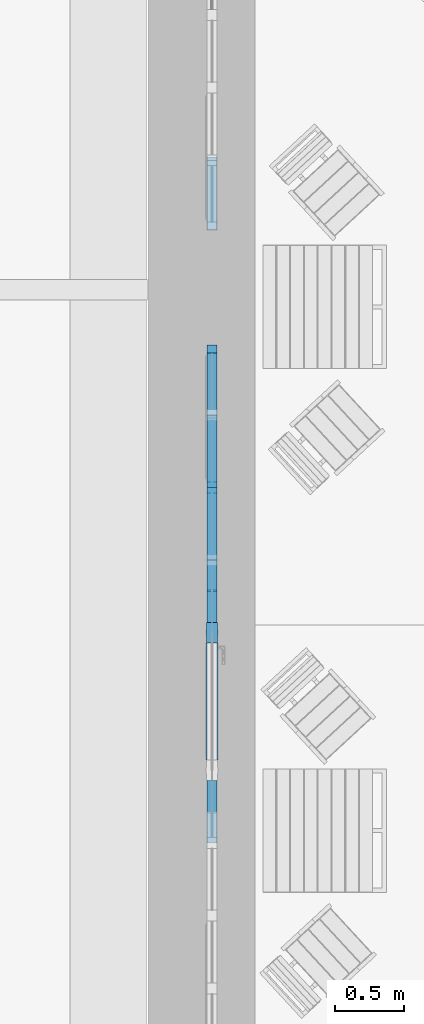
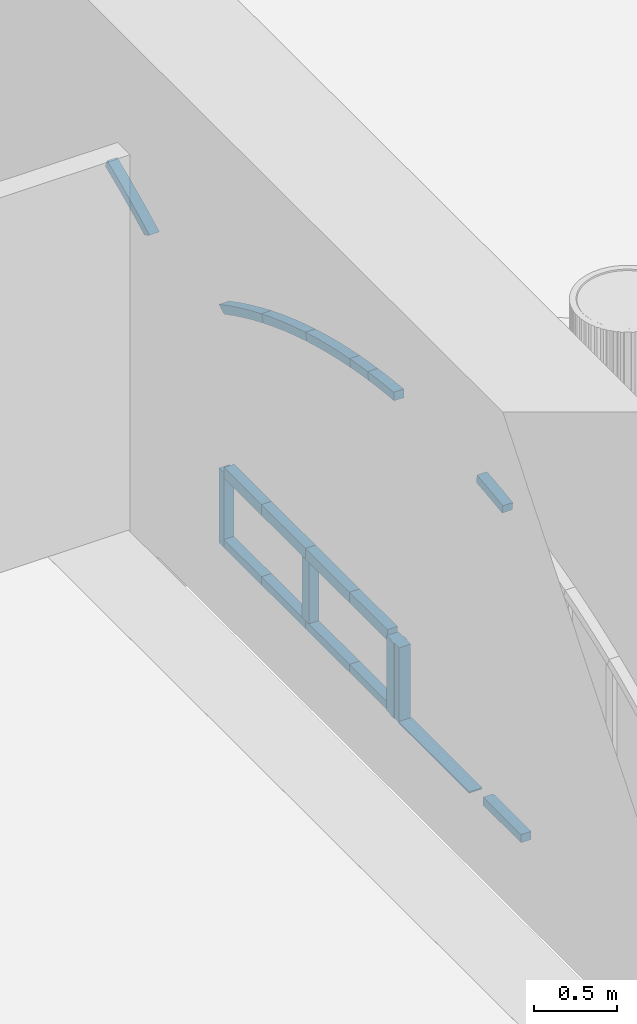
# One storey, part 20 of 88: 20 members, 2 elements without a shape of their own.
"""IFC2X3 building model written with IfcOpenShell, lengths in millimetres."""

from ifc_helpers import new_model, entity, si_unit, converted_unit, derived_unit, direction, frame, frame_2d, origin, place, context, subcontext, project, spatial, polyline, circle_curve, parameter, trimmed, segment, composite_curve, rectangle, outline, extrude, source, transform, mapped, material, type_object, type_shapes, element, aggregate, save


model = new_model("IFC2X3")

# Units and contexts
model_context = context("Model", 3, precision=0.01, world=origin(), true_north=direction((6.123031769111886e-17, 1.0)))
body_context = subcontext(model_context, "Body", "Model", "MODEL_VIEW")
ifc_project = project(units=[si_unit("LENGTHUNIT", "METRE", prefix="MILLI"), si_unit("AREAUNIT", "SQUARE_METRE"), si_unit("VOLUMEUNIT", "CUBIC_METRE"), converted_unit("PLANEANGLEUNIT", "DEGREE", entity("IfcPlaneAngleMeasure", 0.017453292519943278), si_unit("PLANEANGLEUNIT", "RADIAN"), dimensions=[0, 0, 0, 0, 0, 0, 0]), si_unit("MASSUNIT", "GRAM", prefix="KILO"), derived_unit("MASSDENSITYUNIT", [(si_unit("MASSUNIT", "GRAM", prefix="KILO"), 1), (si_unit("LENGTHUNIT", "METRE"), -3)]), derived_unit("IONCONCENTRATIONUNIT", [(si_unit("MASSUNIT", "GRAM", prefix="KILO"), 1), (si_unit("LENGTHUNIT", "METRE"), -3)]), derived_unit("MOMENTOFINERTIAUNIT", [(si_unit("LENGTHUNIT", "METRE"), 4)]), si_unit("TIMEUNIT", "SECOND"), si_unit("FREQUENCYUNIT", "HERTZ"), si_unit("THERMODYNAMICTEMPERATUREUNIT", "DEGREE_CELSIUS"), derived_unit("THERMALTRANSMITTANCEUNIT", [(si_unit("MASSUNIT", "GRAM", prefix="KILO"), 1), (si_unit("THERMODYNAMICTEMPERATUREUNIT", "KELVIN"), -1), (si_unit("TIMEUNIT", "SECOND"), -3)]), derived_unit("THERMALCONDUCTANCEUNIT", [(si_unit("MASSUNIT", "GRAM", prefix="KILO"), 1), (si_unit("THERMODYNAMICTEMPERATUREUNIT", "KELVIN"), -1), (si_unit("TIMEUNIT", "SECOND"), -3), (si_unit("LENGTHUNIT", "METRE"), 1)]), derived_unit("VOLUMETRICFLOWRATEUNIT", [(si_unit("LENGTHUNIT", "METRE", prefix="DECI"), 3), (si_unit("TIMEUNIT", "SECOND"), -1)]), derived_unit("MASSFLOWRATEUNIT", [(si_unit("MASSUNIT", "GRAM", prefix="KILO"), 1), (si_unit("TIMEUNIT", "SECOND"), -1)]), derived_unit("ROTATIONALFREQUENCYUNIT", [(si_unit("TIMEUNIT", "SECOND"), -1)]), si_unit("ELECTRICCURRENTUNIT", "AMPERE"), si_unit("ELECTRICVOLTAGEUNIT", "VOLT"), si_unit("POWERUNIT", "WATT"), si_unit("FORCEUNIT", "NEWTON", prefix="KILO"), si_unit("ILLUMINANCEUNIT", "LUX"), si_unit("LUMINOUSFLUXUNIT", "LUMEN"), si_unit("LUMINOUSINTENSITYUNIT", "CANDELA"), si_unit("ENERGYUNIT", "JOULE"), derived_unit("USERDEFINED", [(si_unit("MASSUNIT", "GRAM", prefix="KILO"), -1), (si_unit("LENGTHUNIT", "METRE"), -2), (si_unit("TIMEUNIT", "SECOND"), 3), (si_unit("LUMINOUSFLUXUNIT", "LUMEN"), 1)]), derived_unit("USERDEFINED", [(si_unit("MASSUNIT", "GRAM", prefix="KILO"), 1), (si_unit("TIMEUNIT", "SECOND"), -3), (si_unit("LENGTHUNIT", "METRE"), 3), (si_unit("ELECTRICCURRENTUNIT", "AMPERE"), -2)]), derived_unit("SOUNDPOWERUNIT", [(si_unit("MASSUNIT", "GRAM", prefix="KILO"), 1), (si_unit("TIMEUNIT", "SECOND"), -3), (si_unit("LENGTHUNIT", "METRE"), 2)]), derived_unit("SOUNDPRESSUREUNIT", [(si_unit("MASSUNIT", "GRAM", prefix="KILO"), 1), (si_unit("LENGTHUNIT", "METRE"), -1), (si_unit("TIMEUNIT", "SECOND"), -2)]), derived_unit("LINEARVELOCITYUNIT", [(si_unit("LENGTHUNIT", "METRE"), 1), (si_unit("TIMEUNIT", "SECOND"), -1)]), si_unit("PRESSUREUNIT", "PASCAL"), derived_unit("USERDEFINED", [(si_unit("MASSUNIT", "GRAM", prefix="KILO"), 1), (si_unit("LENGTHUNIT", "METRE"), -2), (si_unit("TIMEUNIT", "SECOND"), -2)]), derived_unit("LINEARFORCEUNIT", [(si_unit("MASSUNIT", "GRAM", prefix="KILO"), 1), (si_unit("TIMEUNIT", "SECOND"), -2)]), derived_unit("PLANARFORCEUNIT", [(si_unit("MASSUNIT", "GRAM", prefix="KILO"), 1), (si_unit("LENGTHUNIT", "METRE"), -1), (si_unit("TIMEUNIT", "SECOND"), -2)]), derived_unit("SPECIFICHEATCAPACITYUNIT", [(si_unit("THERMODYNAMICTEMPERATUREUNIT", "KELVIN"), -1), (si_unit("LENGTHUNIT", "METRE"), 2), (si_unit("TIMEUNIT", "SECOND"), -2)]), derived_unit("HEATFLUXDENSITYUNIT", [(si_unit("MASSUNIT", "GRAM", prefix="KILO"), 1), (si_unit("TIMEUNIT", "SECOND"), -3)]), derived_unit("HEATINGVALUEUNIT", [(si_unit("LENGTHUNIT", "METRE"), 2), (si_unit("TIMEUNIT", "SECOND"), -2)]), derived_unit("VAPORPERMEABILITYUNIT", [(si_unit("LENGTHUNIT", "METRE"), -1), (si_unit("TIMEUNIT", "SECOND"), 1)]), derived_unit("DYNAMICVISCOSITYUNIT", [(si_unit("MASSUNIT", "GRAM", prefix="KILO"), 1), (si_unit("TIMEUNIT", "SECOND"), -1), (si_unit("LENGTHUNIT", "METRE"), -1)]), derived_unit("THERMALEXPANSIONCOEFFICIENTUNIT", [(si_unit("THERMODYNAMICTEMPERATUREUNIT", "KELVIN"), -1)]), derived_unit("MODULUSOFELASTICITYUNIT", [(si_unit("MASSUNIT", "GRAM", prefix="KILO"), 1), (si_unit("LENGTHUNIT", "METRE"), -1), (si_unit("TIMEUNIT", "SECOND"), -2)]), derived_unit("ISOTHERMALMOISTURECAPACITYUNIT", [(si_unit("MASSUNIT", "GRAM", prefix="KILO"), -1), (si_unit("LENGTHUNIT", "METRE"), 3)]), derived_unit("MOISTUREDIFFUSIVITYUNIT", [(si_unit("TIMEUNIT", "SECOND"), -1), (si_unit("LENGTHUNIT", "METRE"), 2)]), derived_unit("MASSPERLENGTHUNIT", [(si_unit("MASSUNIT", "GRAM", prefix="KILO"), 1), (si_unit("LENGTHUNIT", "METRE"), -1)]), derived_unit("THERMALRESISTANCEUNIT", [(si_unit("MASSUNIT", "GRAM", prefix="KILO"), -1), (si_unit("TIMEUNIT", "SECOND"), 3), (si_unit("THERMODYNAMICTEMPERATUREUNIT", "KELVIN"), 1)]), derived_unit("ACCELERATIONUNIT", [(si_unit("LENGTHUNIT", "METRE"), 1), (si_unit("TIMEUNIT", "SECOND"), -2)]), derived_unit("ANGULARVELOCITYUNIT", [(si_unit("TIMEUNIT", "SECOND"), -1), (si_unit("PLANEANGLEUNIT", "RADIAN"), 1)]), derived_unit("LINEARSTIFFNESSUNIT", [(si_unit("MASSUNIT", "GRAM", prefix="KILO"), 1), (si_unit("TIMEUNIT", "SECOND"), -2)]), derived_unit("WARPINGCONSTANTUNIT", [(si_unit("LENGTHUNIT", "METRE"), 6)]), derived_unit("LINEARMOMENTUNIT", [(si_unit("MASSUNIT", "GRAM", prefix="KILO"), 1), (si_unit("LENGTHUNIT", "METRE"), 1), (si_unit("TIMEUNIT", "SECOND"), -2)]), derived_unit("TORQUEUNIT", [(si_unit("MASSUNIT", "GRAM", prefix="KILO"), 1), (si_unit("LENGTHUNIT", "METRE"), 2), (si_unit("TIMEUNIT", "SECOND"), -2)])], contexts=[model_context])

# Site, building, storey
site_placement = place(None, origin())
site = spatial("IfcSite", under=ifc_project, at=site_placement, Name="Default", CompositionType="ELEMENT")
building_placement = place(site_placement, origin())
building = spatial("IfcBuilding", under=site, at=building_placement, Name="Eesti Rahvusraamatukogu hoone renoveerimise projekteerimistööd", CompositionType="ELEMENT")
storey_placement = place(building_placement, origin())
storey = spatial("IfcBuildingStorey", under=building, at=storey_placement, Name="1. korrus", CompositionType="ELEMENT", Elevation=0.0)

# Curtain wall, members
curtain_wall_type_1 = type_object("IfcCurtainWallType", Name="Curtain Wall:Ak-05*", PredefinedType="NOTDEFINED")
curtain_wall_1_placement = place(storey_placement, origin())
curtain_wall_1 = element("IfcCurtainWall", 1, at=curtain_wall_1_placement, inside=storey, type_object=curtain_wall_type_1, Name="Curtain Wall:Ak-05*", ObjectType="Curtain Wall:Ak-05*")
ifc_material_1 = material(Name="LUMION_dark steel window frames")
member_type_1 = type_object("IfcMemberType", Name="Rectangular Mullion:NEW 60x70mm", PredefinedType="MULLION", material=ifc_material_1)
shared_shape_1 = source(origin(), body_context, "Body", "SweptSolid", [
    extrude(outline(composite_curve([segment(trimmed(circle_curve(frame_2d((4549.812785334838, 3066.2072493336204), x_axis=(-0.8006634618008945, -0.5991143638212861)), 5523.280566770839), [parameter(354.15250498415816)], [parameter(359.99999999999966)], True, "PARAMETER"), True, "CONTINUOUS"), segment(polyline([(127.52384624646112, -242.86947363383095), (175.56365395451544, -206.92261180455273)]), True, "CONTINUOUS"), segment(trimmed(circle_curve(frame_2d((4549.812785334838, 3066.2072493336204), x_axis=(-0.8006634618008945, -0.5991143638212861)), 5463.280566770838), [parameter(354.53073311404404)], [parameter(359.99999999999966)], True, "PARAMETER"), False, "CONTINUOUS"), segment(polyline([(-116.49037438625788, 224.89604271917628), (-186.59712581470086, 224.89604271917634)]), True, "CONTINUOUS")], self_intersect=False)), frame((-43.402905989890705, -35.0, -270.85808154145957), z_axis=(0.0, -1.0, 0.0), x_axis=(-0.800663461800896, 0.0, 0.5991143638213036)), (0.0, 0.0, -1.0), 69.99999999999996),
])
type_shapes(member_type_1, [shared_shape_1])
member_1_placement = place(curtain_wall_1_placement, frame((-42905.0, 11480.0, 1939.304710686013), z_axis=(0.0, -0.9256428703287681, 0.3783983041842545), x_axis=(0.0, 0.3783983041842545, 0.9256428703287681)))
member_1 = element("IfcMember", 2, at=member_1_placement, type_object=member_type_1, material=ifc_material_1, Name="Rectangular Mullion:NEW 60x70mm", ObjectType="Rectangular Mullion:NEW 60x70mm", context=body_context, shape_type="MappedRepresentation", body=[
    mapped(shared_shape_1, transform((0.0, 0.0, 0.0), scale=1.0)),
])
member_type_2 = type_object("IfcMemberType", Name="Rectangular Mullion:NEW 60x70mm", PredefinedType="MULLION", material=ifc_material_1)
shared_shape_2 = source(origin(), body_context, "Body", "SweptSolid", [
    extrude(outline(composite_curve([segment(polyline([(-44.19959331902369, -278.9278071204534), (15.8004066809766, -278.92780712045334)]), True, "CONTINUOUS"), segment(trimmed(circle_curve(frame_2d((5479.0809734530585, -278.9278071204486), x_axis=(-0.9948301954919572, 0.10155236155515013)), 5463.28056677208), [parameter(3.5622212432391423e-13)], [parameter(5.828569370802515)], True, "PARAMETER"), False, "CONTINUOUS"), segment(polyline([(44.04449918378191, 275.88123627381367), (-15.645312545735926, 281.97437796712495)]), True, "CONTINUOUS"), segment(trimmed(circle_curve(frame_2d((5479.0809734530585, -278.9278071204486), x_axis=(-0.9948301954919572, 0.10155236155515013)), 5523.28056677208), [parameter(3.5622212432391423e-13)], [parameter(5.828569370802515)], True, "PARAMETER"), True, "CONTINUOUS")], self_intersect=False)), frame((-44.199593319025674, -35.0, -278.9278071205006), z_axis=(0.0, 1.0, 0.0), x_axis=(-0.994830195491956, 0.0, 0.1015523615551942)), (0.0, 0.0, 1.0), 70.0),
])
type_shapes(member_type_2, [shared_shape_2])
member_2_placement = place(curtain_wall_1_placement, frame((-42905.0, 10950.0, 2125.1180799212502), z_axis=(0.0, -0.9592847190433, 0.2824408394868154), x_axis=(0.0, 0.2824408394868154, 0.9592847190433)))
member_2 = element("IfcMember", 3, at=member_2_placement, type_object=member_type_2, material=ifc_material_1, Name="Rectangular Mullion:NEW 60x70mm", ObjectType="Rectangular Mullion:NEW 60x70mm", context=body_context, shape_type="MappedRepresentation", body=[
    mapped(shared_shape_2, transform((0.0, 0.0, 0.0), scale=1.0)),
])
member_type_3 = type_object("IfcMemberType", Name="Rectangular Mullion:NEW 60x70mm", PredefinedType="MULLION", material=ifc_material_1)
shared_shape_3 = source(origin(), body_context, "Body", "SweptSolid", [
    extrude(outline(composite_curve([segment(polyline([(-43.38278695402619, -270.80676601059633), (16.61721304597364, -270.8067660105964)]), True, "CONTINUOUS"), segment(trimmed(circle_curve(frame_2d((5479.897779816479, -270.8067660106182), x_axis=(-0.9951275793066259, 0.0985956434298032)), 5463.280566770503), [parameter(3.5622212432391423e-13)], [parameter(5.658307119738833)], True, "PARAMETER"), False, "CONTINUOUS"), segment(polyline([(43.23661433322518, 267.848896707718), (-16.471040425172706, 273.76463531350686)]), True, "CONTINUOUS"), segment(trimmed(circle_curve(frame_2d((5479.897779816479, -270.8067660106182), x_axis=(-0.9951275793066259, 0.0985956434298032)), 5523.280566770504), [parameter(3.5622212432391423e-13)], [parameter(5.658307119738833)], True, "PARAMETER"), True, "CONTINUOUS")], self_intersect=False)), frame((-43.38278695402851, -35.0, -270.8067660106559), z_axis=(0.0, 1.0, 0.0), x_axis=(-0.9951275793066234, 0.0, 0.09859564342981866)), (0.0, 0.0, 1.0), 69.99999999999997),
])
type_shapes(member_type_3, [shared_shape_3])
member_3_placement = place(curtain_wall_1_placement, frame((-42905.0, 10420.0, 2253.111256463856), z_axis=(0.0, -0.9824581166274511, 0.18648337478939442), x_axis=(0.0, 0.18648337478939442, 0.9824581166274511)))
member_3 = element("IfcMember", 4, at=member_3_placement, type_object=member_type_3, material=ifc_material_1, Name="Rectangular Mullion:NEW 60x70mm", ObjectType="Rectangular Mullion:NEW 60x70mm", context=body_context, shape_type="MappedRepresentation", body=[
    mapped(shared_shape_3, transform((0.0, 0.0, 0.0), scale=1.0)),
])
member_type_4 = type_object("IfcMemberType", Name="Rectangular Mullion:NEW 60x70mm", PredefinedType="MULLION", material=ifc_material_1)
shared_shape_4 = source(origin(), body_context, "Body", "SweptSolid", [
    extrude(outline(composite_curve([segment(polyline([(-34.44225079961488, -156.14991642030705), (25.5577492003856, -156.14991642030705)]), True, "CONTINUOUS"), segment(trimmed(circle_curve(frame_2d((5488.8383159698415, -156.14991642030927), x_axis=(-0.9983826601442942, 0.05685124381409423)), 5463.280566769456), [parameter(3.5622212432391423e-13)], [parameter(3.2590935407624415)], True, "PARAMETER"), False, "CONTINUOUS"), segment(polyline([(34.393730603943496, 154.44437910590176), (-25.509229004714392, 157.8554537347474)]), True, "CONTINUOUS"), segment(trimmed(circle_curve(frame_2d((5488.8383159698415, -156.14991642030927), x_axis=(-0.9983826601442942, 0.05685124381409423)), 5523.280566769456), [parameter(3.5622212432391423e-13)], [parameter(3.2590935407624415)], True, "PARAMETER"), True, "CONTINUOUS")], self_intersect=False)), frame((-34.44225079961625, -35.0, -156.14991642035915), z_axis=(0.0, 1.0, 0.0), x_axis=(-0.9983826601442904, 0.0, 0.056851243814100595)), (0.0, 0.0, 1.0), 69.99999999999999),
])
type_shapes(member_type_4, [shared_shape_4])
member_4_placement = place(curtain_wall_1_placement, frame((-42905.0, 9890.0, 2327.3219656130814), z_axis=(0.0, -0.9958941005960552, 0.09052591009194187), x_axis=(0.0, 0.09052591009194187, 0.9958941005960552)))
member_4 = element("IfcMember", 5, at=member_4_placement, type_object=member_type_4, material=ifc_material_1, Name="Rectangular Mullion:NEW 60x70mm", ObjectType="Rectangular Mullion:NEW 60x70mm", context=body_context, shape_type="MappedRepresentation", body=[
    mapped(shared_shape_4, transform((0.0, 0.0, 0.0), scale=1.0)),
])

# Curtain wall, member
curtain_wall_type_2 = type_object("IfcCurtainWallType", Name="Curtain Wall:Ak-05", PredefinedType="NOTDEFINED")
curtain_wall_2_placement = place(storey_placement, origin())
curtain_wall_2 = element("IfcCurtainWall", 6, at=curtain_wall_2_placement, inside=storey, type_object=curtain_wall_type_2, Name="Curtain Wall:Ak-05", ObjectType="Curtain Wall:Ak-05")
member_type_5 = type_object("IfcMemberType", Name="Rectangular Mullion:NEW 60x70mm", PredefinedType="MULLION", material=ifc_material_1)
shared_shape_5 = source(origin(), body_context, "Body", "SweptSolid", [
    extrude(outline(composite_curve([segment(polyline([(-43.402905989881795, -270.8580815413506), (16.59709401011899, -270.85808154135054)]), True, "CONTINUOUS"), segment(trimmed(circle_curve(frame_2d((5479.877660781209, -270.8580815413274), x_axis=(-0.9947965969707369, 0.10188096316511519)), 5463.280566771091), [parameter(0.37822812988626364)], [parameter(5.847495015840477)], True, "PARAMETER"), False, "CONTINUOUS"), segment(polyline([(41.46886313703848, 249.85710065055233), (-14.66305115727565, 291.85906243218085)]), True, "CONTINUOUS"), segment(trimmed(circle_curve(frame_2d((5479.877660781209, -270.8580815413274), x_axis=(-0.9947965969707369, 0.10188096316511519)), 5523.280566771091), [parameter(3.5622212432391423e-13)], [parameter(5.847495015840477)], True, "PARAMETER"), True, "CONTINUOUS")], self_intersect=False)), frame((-44.32163578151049, -35.0, -288.84651632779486), z_axis=(0.0, 1.0, 0.0), x_axis=(-0.9947965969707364, 0.0, 0.10188096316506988)), (0.0, 0.0, 1.0), 69.99999999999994),
])
type_shapes(member_type_5, [shared_shape_5])
member_5_placement = place(curtain_wall_2_placement, frame((-42905.0, 12825.0, 1699.7706559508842), z_axis=(0.0, -0.8822747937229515, -0.47073473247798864), x_axis=(0.0, -0.47073473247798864, 0.8822747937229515)))
member_5 = element("IfcMember", 7, at=member_5_placement, type_object=member_type_5, material=ifc_material_1, Name="Rectangular Mullion:NEW 60x70mm", ObjectType="Rectangular Mullion:NEW 60x70mm", context=body_context, shape_type="MappedRepresentation", body=[
    mapped(shared_shape_5, transform((0.0, 0.0, 0.0), scale=1.0)),
])
aggregate(curtain_wall_2, [member_5])

# Member
member_type_6 = type_object("IfcMemberType", Name="Rectangular Mullion:NEW 150x90mm", PredefinedType="MULLION", material=ifc_material_1)
shared_shape_6 = source(origin(), body_context, "Body", "SweptSolid", [
    extrude(outline(polyline([(40.0, -20.0), (45.0, -20.0), (45.0, 20.0), (40.0, 20.0), (40.0, 75.0), (-40.0, 75.0), (-40.0, 20.0), (-45.0, 20.0), (-45.0, -20.0), (-40.0, -20.0), (-40.0, -75.0), (40.0, -75.0), (40.0, -20.0)])), frame((0.0, 0.0, -550.0), z_axis=(0.0, 0.0, 1.0), x_axis=(0.0, -1.0, 0.0)), (0.0, 0.0, 1.0), 550.0000000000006),
])
type_shapes(member_type_6, [shared_shape_6])
member_6_placement = place(curtain_wall_1_placement, frame((-42905.0, 9890.0, -50.0), z_axis=(0.0, 0.0, -1.0), x_axis=(0.0, -1.0, 0.0)))
member_6 = element("IfcMember", 8, at=member_6_placement, type_object=member_type_6, material=ifc_material_1, Name="Rectangular Mullion:NEW 150x90mm", ObjectType="Rectangular Mullion:NEW 150x90mm", context=body_context, shape_type="MappedRepresentation", body=[
    mapped(shared_shape_6, transform((0.0, 0.0, 0.0), scale=1.0)),
])

member_type_7 = type_object("IfcMemberType", Name="Rectangular Mullion:NEW 80x70mm", PredefinedType="MULLION", material=ifc_material_1)
shared_shape_7 = source(origin(), body_context, "Body", "SweptSolid", [
    extrude(rectangle(XDim=80.0, YDim=70.0, at=frame_2d((0.0, -3.552713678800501e-15), x_axis=(1.0, 0.0))), frame((0.0, 0.0, -530.0), z_axis=(0.0, 0.0, 1.0), x_axis=(-1.0, 0.0, 0.0)), (0.0, 0.0, 1.0), 530.0000000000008),
])
type_shapes(member_type_7, [shared_shape_7])
member_7_placement = place(curtain_wall_1_placement, frame((-42905.0, 10950.0, 500.0), z_axis=(0.0, -1.0, 0.0), x_axis=(0.0, 0.0, 1.0)))
member_7 = element("IfcMember", 9, at=member_7_placement, type_object=member_type_7, material=ifc_material_1, Name="Rectangular Mullion:NEW 80x70mm", ObjectType="Rectangular Mullion:NEW 80x70mm", context=body_context, shape_type="MappedRepresentation", body=[
    mapped(shared_shape_7, transform((0.0, 0.0, 0.0), scale=1.0)),
])

member_8_placement = place(curtain_wall_1_placement, frame((-42905.0, 10420.0, 500.0), z_axis=(0.0, -1.0, 0.0), x_axis=(0.0, 0.0, 1.0)))
member_8 = element("IfcMember", 10, at=member_8_placement, type_object=member_type_7, material=ifc_material_1, Name="Rectangular Mullion:NEW 80x70mm", ObjectType="Rectangular Mullion:NEW 80x70mm", context=body_context, shape_type="MappedRepresentation", body=[
    mapped(shared_shape_7, transform((0.0, 0.0, 0.0), scale=1.0)),
])

member_type_8 = type_object("IfcMemberType", Name="Rectangular Mullion:NEW 80x70mm", PredefinedType="MULLION", material=ifc_material_1)
shared_shape_8 = source(origin(), body_context, "Body", "SweptSolid", [
    extrude(rectangle(XDim=80.0, YDim=70.0, at=frame_2d((0.0, -3.552713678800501e-15), x_axis=(1.0, 0.0))), frame((0.0, 0.0, -455.0), z_axis=(0.0, 0.0, 1.0), x_axis=(-1.0, 0.0, 0.0)), (0.0, 0.0, 1.0), 455.0000000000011),
])
type_shapes(member_type_8, [shared_shape_8])
member_9_placement = place(curtain_wall_1_placement, frame((-42905.0, 9965.0, 500.0), z_axis=(0.0, -1.0, 0.0), x_axis=(0.0, 0.0, 1.0)))
member_9 = element("IfcMember", 11, at=member_9_placement, type_object=member_type_8, material=ifc_material_1, Name="Rectangular Mullion:NEW 80x70mm", ObjectType="Rectangular Mullion:NEW 80x70mm", context=body_context, shape_type="MappedRepresentation", body=[
    mapped(shared_shape_8, transform((0.0, 0.0, 0.0), scale=1.0)),
])

member_type_9 = type_object("IfcMemberType", Name="Rectangular Mullion:NEW 80x70mm", PredefinedType="MULLION", material=ifc_material_1)
shared_shape_9 = source(origin(), body_context, "Body", "SweptSolid", [
    extrude(rectangle(XDim=80.0, YDim=70.0, at=frame_2d((0.0, -3.552713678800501e-15), x_axis=(1.0, 0.0))), frame((0.0, 0.0, -450.0), z_axis=(0.0, 0.0, 1.0), x_axis=(-1.0, 0.0, 0.0)), (0.0, 0.0, 1.0), 449.9999999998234),
])
type_shapes(member_type_9, [shared_shape_9])
member_10_placement = place(curtain_wall_1_placement, frame((-42905.0, 11480.0, 500.0), z_axis=(0.0, -1.0, 0.0), x_axis=(0.0, 0.0, 1.0)))
member_10 = element("IfcMember", 12, at=member_10_placement, type_object=member_type_9, material=ifc_material_1, Name="Rectangular Mullion:NEW 80x70mm", ObjectType="Rectangular Mullion:NEW 80x70mm", context=body_context, shape_type="MappedRepresentation", body=[
    mapped(shared_shape_9, transform((0.0, 0.0, 0.0), scale=1.0)),
])

member_type_10 = type_object("IfcMemberType", Name="Rectangular Mullion:NEW 80x70mm", PredefinedType="MULLION", material=ifc_material_1)
shared_shape_10 = source(origin(), body_context, "Body", "SweptSolid", [
    extrude(rectangle(XDim=80.0, YDim=70.0, at=frame_2d((0.0, 3.552713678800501e-15), x_axis=(1.0, 0.0))), frame((0.0, 0.0, -450.0), z_axis=(0.0, 0.0, 1.0), x_axis=(-1.0, 0.0, 0.0)), (0.0, 0.0, 1.0), 450.00000000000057),
])
type_shapes(member_type_10, [shared_shape_10])
member_11_placement = place(curtain_wall_1_placement, frame((-42905.0, 10950.0, 10.0), z_axis=(0.0, 0.0, -1.0), x_axis=(0.0, -1.0, 0.0)))
member_11 = element("IfcMember", 13, at=member_11_placement, type_object=member_type_10, material=ifc_material_1, Name="Rectangular Mullion:NEW 80x70mm", ObjectType="Rectangular Mullion:NEW 80x70mm", context=body_context, shape_type="MappedRepresentation", body=[
    mapped(shared_shape_10, transform((0.0, 0.0, 0.0), scale=1.0)),
])

member_type_11 = type_object("IfcMemberType", Name="Rectangular Mullion:NEW 60x70mm", PredefinedType="MULLION", material=ifc_material_1)
shared_shape_11 = source(origin(), body_context, "Body", "SweptSolid", [
    extrude(rectangle(XDim=60.0, YDim=70.0, at=frame_2d((0.0, 3.552713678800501e-15), x_axis=(1.0, 0.0))), frame((-30.0, 0.0, -550.0), z_axis=(0.0, 0.0, 1.0), x_axis=(-1.0, 0.0, 0.0)), (0.0, 0.0, 1.0), 550.0000000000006),
])
type_shapes(member_type_11, [shared_shape_11])
member_12_placement = place(curtain_wall_1_placement, frame((-42905.0, 11990.0, 500.0), z_axis=(0.0, 0.0, 1.0), x_axis=(0.0, 1.0, 0.0)))
member_12 = element("IfcMember", 14, at=member_12_placement, type_object=member_type_11, material=ifc_material_1, Name="Rectangular Mullion:NEW 60x70mm", ObjectType="Rectangular Mullion:NEW 60x70mm", context=body_context, shape_type="MappedRepresentation", body=[
    mapped(shared_shape_11, transform((0.0, 0.0, 0.0), scale=1.0)),
])

member_type_12 = type_object("IfcMemberType", Name="Rectangular Mullion:NEW 60x70mm", PredefinedType="MULLION", material=ifc_material_1)
shared_shape_12 = source(origin(), body_context, "Body", "SweptSolid", [
    extrude(rectangle(XDim=60.0, YDim=70.0, at=frame_2d((0.0, 3.552713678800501e-15), x_axis=(1.0, 0.0))), frame((-30.0, 0.0, -530.0), z_axis=(0.0, 0.0, 1.0), x_axis=(-1.0, 0.0, 0.0)), (0.0, 0.0, 1.0), 530.0000000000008),
])
type_shapes(member_type_12, [shared_shape_12])
member_13_placement = place(curtain_wall_1_placement, frame((-42905.0, 10950.0, -50.0), z_axis=(0.0, 1.0, 0.0), x_axis=(0.0, 0.0, -1.0)))
member_13 = element("IfcMember", 15, at=member_13_placement, type_object=member_type_12, material=ifc_material_1, Name="Rectangular Mullion:NEW 60x70mm", ObjectType="Rectangular Mullion:NEW 60x70mm", context=body_context, shape_type="MappedRepresentation", body=[
    mapped(shared_shape_12, transform((0.0, 0.0, 0.0), scale=1.0)),
])

member_type_13 = type_object("IfcMemberType", Name="Rectangular Mullion:NEW 60x70mm", PredefinedType="MULLION", material=ifc_material_1)
shared_shape_13 = source(origin(), body_context, "Body", "SweptSolid", [
    extrude(rectangle(XDim=60.0, YDim=70.0, at=frame_2d((0.0, 3.552713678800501e-15), x_axis=(1.0, 0.0))), frame((-30.0, 0.0, -530.0), z_axis=(0.0, 0.0, 1.0), x_axis=(-1.0, 0.0, 0.0)), (0.0, 0.0, 1.0), 530.0000000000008),
])
type_shapes(member_type_13, [shared_shape_13])
member_14_placement = place(curtain_wall_1_placement, frame((-42905.0, 11480.0, -50.0), z_axis=(0.0, 1.0, 0.0), x_axis=(0.0, 0.0, -1.0)))
member_14 = element("IfcMember", 16, at=member_14_placement, type_object=member_type_13, material=ifc_material_1, Name="Rectangular Mullion:NEW 60x70mm", ObjectType="Rectangular Mullion:NEW 60x70mm", context=body_context, shape_type="MappedRepresentation", body=[
    mapped(shared_shape_13, transform((0.0, 0.0, 0.0), scale=1.0)),
])

member_type_14 = type_object("IfcMemberType", Name="Rectangular Mullion:NEW 60x70mm", PredefinedType="MULLION", material=ifc_material_1)
shared_shape_14 = source(origin(), body_context, "Body", "SweptSolid", [
    extrude(rectangle(XDim=60.0, YDim=70.0, at=frame_2d((0.0, 3.552713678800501e-15), x_axis=(1.0, 0.0))), frame((-30.0, 0.0, -455.0), z_axis=(0.0, 0.0, 1.0), x_axis=(-1.0, 0.0, 0.0)), (0.0, 0.0, 1.0), 455.0000000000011),
])
type_shapes(member_type_14, [shared_shape_14])
member_15_placement = place(curtain_wall_1_placement, frame((-42905.0, 10420.0, -50.0), z_axis=(0.0, 1.0, 0.0), x_axis=(0.0, 0.0, -1.0)))
member_15 = element("IfcMember", 17, at=member_15_placement, type_object=member_type_14, material=ifc_material_1, Name="Rectangular Mullion:NEW 60x70mm", ObjectType="Rectangular Mullion:NEW 60x70mm", context=body_context, shape_type="MappedRepresentation", body=[
    mapped(shared_shape_14, transform((0.0, 0.0, 0.0), scale=1.0)),
])

member_type_15 = type_object("IfcMemberType", Name="Rectangular Mullion:NEW 60x70mm", PredefinedType="MULLION", material=ifc_material_1)
shared_shape_15 = source(origin(), body_context, "Body", "SweptSolid", [
    extrude(rectangle(XDim=60.0, YDim=70.0, at=frame_2d((0.0, 3.552713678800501e-15), x_axis=(1.0, 0.0))), frame((-30.0, 0.0, -455.0), z_axis=(0.0, 0.0, 1.0), x_axis=(-1.0, 0.0, 0.0)), (0.0, 0.0, 1.0), 455.0000000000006),
])
type_shapes(member_type_15, [shared_shape_15])
member_16_placement = place(curtain_wall_1_placement, frame((-42905.0, 8815.0, -50.0), z_axis=(0.0, 1.0, 0.0), x_axis=(0.0, 0.0, -1.0)))
member_16 = element("IfcMember", 18, at=member_16_placement, type_object=member_type_15, material=ifc_material_1, Name="Rectangular Mullion:NEW 60x70mm", ObjectType="Rectangular Mullion:NEW 60x70mm", context=body_context, shape_type="MappedRepresentation", body=[
    mapped(shared_shape_15, transform((0.0, 0.0, 0.0), scale=1.0)),
])

member_type_16 = type_object("IfcMemberType", Name="Rectangular Mullion:NEW 60x70mm", PredefinedType="MULLION", material=ifc_material_1)
shared_shape_16 = source(origin(), body_context, "Body", "SweptSolid", [
    extrude(rectangle(XDim=60.0, YDim=70.0, at=frame_2d((0.0, 3.552713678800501e-15), x_axis=(1.0, 0.0))), frame((-30.0, 0.0, -450.0), z_axis=(0.0, 0.0, 1.0), x_axis=(-1.0, 0.0, 0.0)), (0.0, 0.0, 1.0), 449.9999999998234),
])
type_shapes(member_type_16, [shared_shape_16])
member_17_placement = place(curtain_wall_1_placement, frame((-42905.0, 11930.0, -50.0), z_axis=(0.0, 1.0, 0.0), x_axis=(0.0, 0.0, -1.0)))
member_17 = element("IfcMember", 19, at=member_17_placement, type_object=member_type_16, material=ifc_material_1, Name="Rectangular Mullion:NEW 60x70mm", ObjectType="Rectangular Mullion:NEW 60x70mm", context=body_context, shape_type="MappedRepresentation", body=[
    mapped(shared_shape_16, transform((0.0, 0.0, 0.0), scale=1.0)),
])

ifc_material_2 = material(Name="Lumion_aluminium")
member_type_17 = type_object("IfcMemberType", Name="Rectangular Mullion:NEW 10x90mm", PredefinedType="MULLION", material=ifc_material_2)
shared_shape_17 = source(origin(), body_context, "Body", "SweptSolid", [
    extrude(rectangle(XDim=10.0, YDim=90.0, at=frame_2d((0.0, 3.552713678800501e-15), x_axis=(1.0, 0.0))), frame((-5.0, 0.0, -850.0), z_axis=(0.0, 0.0, 1.0), x_axis=(-1.0, 0.0, 0.0)), (0.0, 0.0, 1.0), 849.9999999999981),
])
type_shapes(member_type_17, [shared_shape_17])
member_18_placement = place(curtain_wall_1_placement, frame((-42905.0, 9815.0, -50.0), z_axis=(0.0, 1.0, 0.0), x_axis=(0.0, 0.0, -1.0)))
member_18 = element("IfcMember", 20, at=member_18_placement, type_object=member_type_17, material=ifc_material_2, Name="Rectangular Mullion:NEW 10x90mm", ObjectType="Rectangular Mullion:NEW 10x90mm", context=body_context, shape_type="MappedRepresentation", body=[
    mapped(shared_shape_17, transform((0.0, 0.0, 0.0), scale=1.0)),
])

member_type_18 = type_object("IfcMemberType", Name="Rectangular Mullion:NEW 60x70mm", PredefinedType="MULLION", material=ifc_material_1)
shared_shape_18 = source(origin(), body_context, "Body", "SweptSolid", [
    extrude(outline(composite_curve([segment(polyline([(-34.44225079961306, -156.14991642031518), (25.55774920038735, -156.14991642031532)]), True, "CONTINUOUS"), segment(trimmed(circle_curve(frame_2d((5488.838315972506, -156.14991642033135), x_axis=(-0.9983826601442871, 0.05685124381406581)), 5463.2805667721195), [parameter(3.5622212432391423e-13)], [parameter(3.2590935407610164)], True, "PARAMETER"), False, "CONTINUOUS"), segment(polyline([(34.393730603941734, 154.44437910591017), (-25.509229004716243, 157.8554537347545)]), True, "CONTINUOUS"), segment(trimmed(circle_curve(frame_2d((5488.838315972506, -156.14991642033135), x_axis=(-0.9983826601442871, 0.05685124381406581)), 5523.2805667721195), [parameter(3.5622212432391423e-13)], [parameter(3.2590935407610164)], True, "PARAMETER"), True, "CONTINUOUS")], self_intersect=False)), frame((-34.44225079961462, -35.0, -156.14991642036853), z_axis=(0.0, 1.0, 0.0), x_axis=(-0.9983826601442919, 0.0, 0.056851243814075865)), (0.0, 0.0, 1.0), 69.99999999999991),
])
type_shapes(member_type_18, [shared_shape_18])
member_19_placement = place(curtain_wall_1_placement, frame((-42905.0, 8578.092574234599, 2290.0), z_axis=(0.0, -0.9891368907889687, -0.1469973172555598), x_axis=(0.0, -0.1469973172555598, 0.9891368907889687)))
member_19 = element("IfcMember", 21, at=member_19_placement, type_object=member_type_18, material=ifc_material_1, Name="Rectangular Mullion:NEW 60x70mm", ObjectType="Rectangular Mullion:NEW 60x70mm", context=body_context, shape_type="MappedRepresentation", body=[
    mapped(shared_shape_18, transform((0.0, 0.0, 0.0), scale=1.0)),
])

member_type_19 = type_object("IfcMemberType", Name="Rectangular Mullion:NEW 60x70mm", PredefinedType="MULLION", material=ifc_material_1)
shared_shape_19 = source(origin(), body_context, "Body", "SweptSolid", [
    extrude(outline(composite_curve([segment(polyline([(-32.202468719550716, -109.97239538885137), (27.79753128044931, -109.97239538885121)]), True, "CONTINUOUS"), segment(trimmed(circle_curve(frame_2d((5491.078098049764, -109.97239538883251), x_axis=(-0.9991981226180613, 0.04003887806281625)), 5463.280566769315), [parameter(3.5622212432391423e-13)], [parameter(2.294672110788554)], True, "PARAMETER"), False, "CONTINUOUS"), segment(polyline([(32.17841239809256, 108.77122904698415), (-27.773474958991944, 111.17356173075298)]), True, "CONTINUOUS"), segment(trimmed(circle_curve(frame_2d((5491.078098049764, -109.97239538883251), x_axis=(-0.9991981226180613, 0.04003887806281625)), 5523.280566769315), [parameter(3.5622212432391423e-13)], [parameter(2.294672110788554)], True, "PARAMETER"), True, "CONTINUOUS")], self_intersect=False)), frame((-32.202468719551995, -35.0, -109.97239538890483), z_axis=(0.0, 1.0, 0.0), x_axis=(-0.9991981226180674, 0.0, 0.04003887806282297)), (0.0, 0.0, 1.0), 69.99999999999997),
])
type_shapes(member_type_19, [shared_shape_19])
member_20_placement = place(curtain_wall_1_placement, frame((-42905.0, 10201.90742576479, 2290.0), z_axis=(0.0, -0.9891368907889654, 0.14699731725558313), x_axis=(0.0, 0.14699731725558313, 0.9891368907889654)))
member_20 = element("IfcMember", 22, at=member_20_placement, type_object=member_type_19, material=ifc_material_1, Name="Rectangular Mullion:NEW 60x70mm", ObjectType="Rectangular Mullion:NEW 60x70mm", context=body_context, shape_type="MappedRepresentation", body=[
    mapped(shared_shape_19, transform((0.0, 0.0, 0.0), scale=1.0)),
])

aggregate(curtain_wall_1, [member_1, member_2, member_3, member_4, member_6, member_7, member_8, member_9, member_10, member_11, member_12, member_14, member_13, member_15, member_16, member_17, member_18, member_19, member_20])

save(model, "model.ifc")
